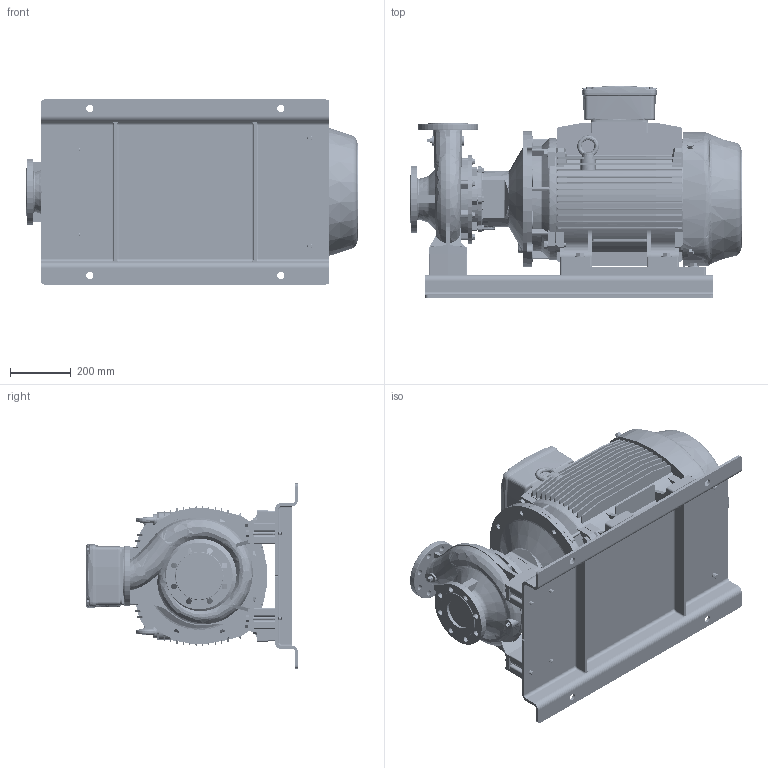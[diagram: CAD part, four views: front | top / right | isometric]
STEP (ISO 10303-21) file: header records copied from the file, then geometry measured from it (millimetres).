
FILE_DESCRIPTION (( 'STEP AP214' ), '1' );
FILE_NAME ('GSD2 80-200_45_(225SM)_W21_BP.STEP', '2024-08-02T04:30:52', ( '' ), ( '' ), 'SwSTEP 2.0', 'SolidWorks 2019', '' );
FILE_SCHEMA (( 'AUTOMOTIVE_DESIGN' ));
Length unit declared in the file: millimetre
Products named in the file (20): Parametric Flat Washer_M12; CGS11-5311_2_3_4_5_CGS11-5315; Parametric bolt_SFT-A359B; Parametric bolt and washer_SFT-A359B; Parametric bolt_SFT-A325B; Parametric bolt and washer_SFT-A325B; N7S3 GSDA-739 F1-1832952-00; Parametric Flat Washer_M16; 225S_M2P IE3_W21T_B35; 80x25 -CGSDA-5281 (225); 80-200-225S_M_______; GSD2  80-200_45_(225SM)_W21_BP
Assembly tree (39 placements, depth 3):
  GSD2  80-200_45_(225SM)_W21_BP
    80-200-225S_M_______
    225S_M2P IE3_W21T_B35
    N7S3 GSDA-739 F1-1832952-00
    CGS11-5311_2_3_4_5_CGS11-5315  x4
    80x25 -CGSDA-5281 (225)  x2
    Parametric bolt and washer_SFT-A325B
      Parametric bolt_SFT-A325B
      Parametric Flat Washer_M12
    Parametric bolt and washer_SFT-A325B
      Parametric bolt_SFT-A325B
      Parametric Flat Washer_M12
    Parametric bolt and washer_SFT-A325B
      Parametric bolt_SFT-A325B
      Parametric Flat Washer_M12
    Parametric bolt and washer_SFT-A325B
      Parametric bolt_SFT-A325B
      Parametric Flat Washer_M12
    Parametric bolt and washer_SFT-A359B
      Parametric bolt_SFT-A359B
      Parametric Flat Washer_M16
    Parametric bolt and washer_SFT-A359B
      Parametric bolt_SFT-A359B
      Parametric Flat Washer_M16
    Parametric bolt and washer_SFT-A359B
      Parametric bolt_SFT-A359B
      Parametric Flat Washer_M16
    Parametric bolt and washer_SFT-A359B
      Parametric bolt_SFT-A359B
      Parametric Flat Washer_M16
    Parametric bolt and washer_SFT-A359B
      Parametric bolt_SFT-A359B
      Parametric Flat Washer_M16
    Parametric bolt and washer_SFT-A359B
      Parametric bolt_SFT-A359B
      Parametric Flat Washer_M16
Bounding box: 1094.5 x 698 x 610 mm (x, y, z)
Volume: 130464434.2 mm3; surface area: 5890673.2 mm2
Topology: 31 solids, 36 shells, 4151 faces, 10971 edges, 7016 vertices
Faces by surface type: plane 1742, cylinder 1397, cone 470, torus 301, bspline 226, sphere 15
Entity records: 150473 total; most frequent: CARTESIAN_POINT 62757, ORIENTED_EDGE 18988, DIRECTION 17635, EDGE_CURVE 9494, AXIS2_PLACEMENT_3D 6478, VERTEX_POINT 6058, LINE 4679, VECTOR 4679
